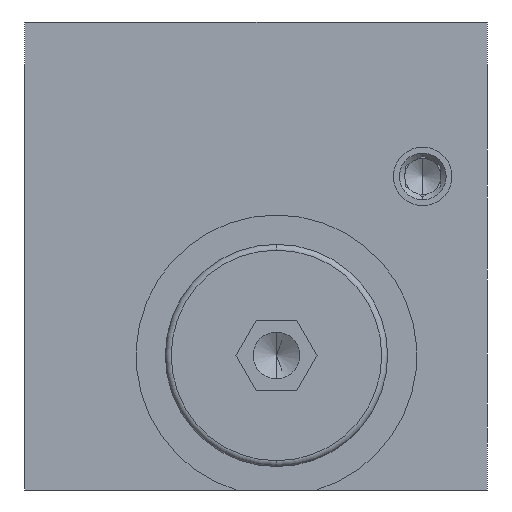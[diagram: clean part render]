
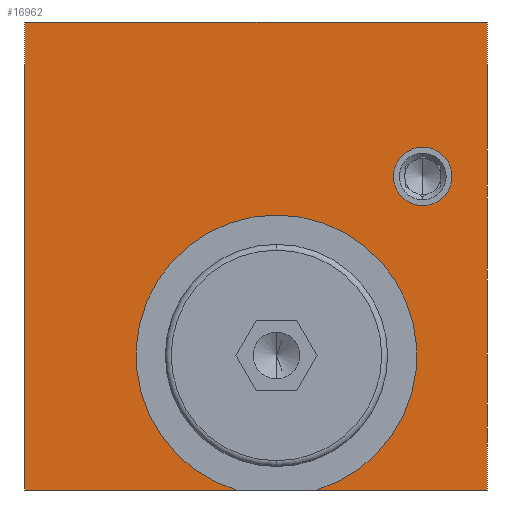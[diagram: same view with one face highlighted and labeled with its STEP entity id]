
A CAD part, left-side view. The second image highlights one B-rep face of the part: STEP entity #16962.
In plain terms, the highlighted planar face has unit normal (-1, 0, 0).
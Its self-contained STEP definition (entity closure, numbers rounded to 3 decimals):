
#9 = DIRECTION ( 'NONE',  ( 0., 0., 1. ) ) ;
#158 = DIRECTION ( 'NONE',  ( 0., 0., 1. ) ) ;
#389 = DIRECTION ( 'NONE',  ( -1., 0., 0. ) ) ;
#1657 = LINE ( 'NONE', #2807, #6633 ) ;
#1958 = EDGE_CURVE ( 'NONE', #11870, #18621, #2540, .T. ) ;
#2540 = LINE ( 'NONE', #6172, #9287 ) ;
#2746 = CARTESIAN_POINT ( 'NONE',  ( 0., 19.75, 20. ) ) ;
#2807 = CARTESIAN_POINT ( 'NONE',  ( 0., -19.75, -20. ) ) ;
#2837 = AXIS2_PLACEMENT_3D ( 'NONE', #5844, #19776, #7772 ) ;
#3061 = CIRCLE ( 'NONE', #18845, 12. ) ;
#3689 = EDGE_CURVE ( 'NONE', #18286, #5353, #3061, .T. ) ;
#4499 = CARTESIAN_POINT ( 'NONE',  ( 0., -1.75, 3.5 ) ) ;
#4808 = CARTESIAN_POINT ( 'NONE',  ( 0., -14.25, 9.3 ) ) ;
#5147 = EDGE_CURVE ( 'NONE', #11561, #9974, #21770, .T. ) ;
#5353 = VERTEX_POINT ( 'NONE', #21919 ) ;
#5844 = CARTESIAN_POINT ( 'NONE',  ( 0., -14.25, 6.8 ) ) ;
#6062 = CARTESIAN_POINT ( 'NONE',  ( 0., -5.178, -20. ) ) ;
#6172 = CARTESIAN_POINT ( 'NONE',  ( 0., -19.75, 20. ) ) ;
#6199 = EDGE_CURVE ( 'NONE', #21408, #22634, #21218, .T. ) ;
#6511 = DIRECTION ( 'NONE',  ( 0., 1., 0. ) ) ;
#6633 = VECTOR ( 'NONE', #6511, 1000. ) ;
#7555 = EDGE_LOOP ( 'NONE', ( #14280, #14464 ) ) ;
#7589 = AXIS2_PLACEMENT_3D ( 'NONE', #11918, #389, #13855 ) ;
#7772 = DIRECTION ( 'NONE',  ( 0., 0., 1. ) ) ;
#7961 = DIRECTION ( 'NONE',  ( -1., 0., 0. ) ) ;
#8121 = DIRECTION ( 'NONE',  ( 0., -1., 0. ) ) ;
#8892 = EDGE_CURVE ( 'NONE', #16458, #11870, #10965, .T. ) ;
#9287 = VECTOR ( 'NONE', #8121, 1000. ) ;
#9307 = VECTOR ( 'NONE', #18723, 1000. ) ;
#9552 = CIRCLE ( 'NONE', #7589, 12. ) ;
#9634 = FACE_OUTER_BOUND ( 'NONE', #11261, .T. ) ;
#9974 = VERTEX_POINT ( 'NONE', #13639 ) ;
#10114 = CARTESIAN_POINT ( 'NONE',  ( 0., -19.75, 20. ) ) ;
#10170 = AXIS2_PLACEMENT_3D ( 'NONE', #23384, #11506, #9 ) ;
#10965 = LINE ( 'NONE', #2746, #16220 ) ;
#11042 = EDGE_CURVE ( 'NONE', #5353, #16458, #1657, .T. ) ;
#11261 = EDGE_LOOP ( 'NONE', ( #14568, #14676, #14745, #14916, #14981, #15074, #15160 ) ) ;
#11506 = DIRECTION ( 'NONE',  ( -1., 0., 0. ) ) ;
#11561 = VERTEX_POINT ( 'NONE', #4808 ) ;
#11777 = CARTESIAN_POINT ( 'NONE',  ( 0., -14.25, 6.8 ) ) ;
#11870 = VERTEX_POINT ( 'NONE', #24442 ) ;
#11918 = CARTESIAN_POINT ( 'NONE',  ( 0., -1.75, -8.5 ) ) ;
#12881 = EDGE_CURVE ( 'NONE', #9974, #11561, #24014, .T. ) ;
#13173 = VECTOR ( 'NONE', #19941, 1000. ) ;
#13639 = CARTESIAN_POINT ( 'NONE',  ( 0., -14.25, 4.3 ) ) ;
#13788 = AXIS2_PLACEMENT_3D ( 'NONE', #11777, #14898, #18991 ) ;
#13855 = DIRECTION ( 'NONE',  ( 0., 0., 1. ) ) ;
#14111 = CARTESIAN_POINT ( 'NONE',  ( 0., -19.75, 20. ) ) ;
#14280 = ORIENTED_EDGE ( 'NONE', *, *, #5147, .F. ) ;
#14409 = DIRECTION ( 'NONE',  ( 0., 0., 1. ) ) ;
#14464 = ORIENTED_EDGE ( 'NONE', *, *, #12881, .F. ) ;
#14568 = ORIENTED_EDGE ( 'NONE', *, *, #17483, .F. ) ;
#14676 = ORIENTED_EDGE ( 'NONE', *, *, #6199, .F. ) ;
#14745 = ORIENTED_EDGE ( 'NONE', *, *, #18191, .F. ) ;
#14898 = DIRECTION ( 'NONE',  ( -1., 0., 0. ) ) ;
#14916 = ORIENTED_EDGE ( 'NONE', *, *, #1958, .F. ) ;
#14981 = ORIENTED_EDGE ( 'NONE', *, *, #8892, .F. ) ;
#15074 = ORIENTED_EDGE ( 'NONE', *, *, #11042, .F. ) ;
#15160 = ORIENTED_EDGE ( 'NONE', *, *, #3689, .F. ) ;
#15351 = PLANE ( 'NONE',  #10170 ) ;
#16220 = VECTOR ( 'NONE', #14409, 1000. ) ;
#16458 = VERTEX_POINT ( 'NONE', #18514 ) ;
#16962 = ADVANCED_FACE ( 'NONE', ( #24873, #9634 ), #15351, .T. ) ;
#17095 = CARTESIAN_POINT ( 'NONE',  ( 0., -1.75, -8.5 ) ) ;
#17483 = EDGE_CURVE ( 'NONE', #22634, #18286, #9552, .T. ) ;
#17961 = CARTESIAN_POINT ( 'NONE',  ( 0., -19.75, -20. ) ) ;
#18191 = EDGE_CURVE ( 'NONE', #18621, #21408, #23773, .T. ) ;
#18286 = VERTEX_POINT ( 'NONE', #4499 ) ;
#18514 = CARTESIAN_POINT ( 'NONE',  ( 0., 19.75, -20. ) ) ;
#18621 = VERTEX_POINT ( 'NONE', #14111 ) ;
#18723 = DIRECTION ( 'NONE',  ( 0., 1., 0. ) ) ;
#18845 = AXIS2_PLACEMENT_3D ( 'NONE', #17095, #7961, #158 ) ;
#18991 = DIRECTION ( 'NONE',  ( 0., 0., 1. ) ) ;
#19776 = DIRECTION ( 'NONE',  ( -1., 0., 0. ) ) ;
#19941 = DIRECTION ( 'NONE',  ( 0., 0., -1. ) ) ;
#21218 = LINE ( 'NONE', #17961, #9307 ) ;
#21408 = VERTEX_POINT ( 'NONE', #24707 ) ;
#21770 = CIRCLE ( 'NONE', #13788, 2.5 ) ;
#21919 = CARTESIAN_POINT ( 'NONE',  ( 0., 1.678, -20. ) ) ;
#22634 = VERTEX_POINT ( 'NONE', #6062 ) ;
#23384 = CARTESIAN_POINT ( 'NONE',  ( 0., 19.75, -20. ) ) ;
#23773 = LINE ( 'NONE', #10114, #13173 ) ;
#24014 = CIRCLE ( 'NONE', #2837, 2.5 ) ;
#24442 = CARTESIAN_POINT ( 'NONE',  ( 0., 19.75, 20. ) ) ;
#24707 = CARTESIAN_POINT ( 'NONE',  ( 0., -19.75, -20. ) ) ;
#24873 = FACE_BOUND ( 'NONE', #7555, .T. ) ;
